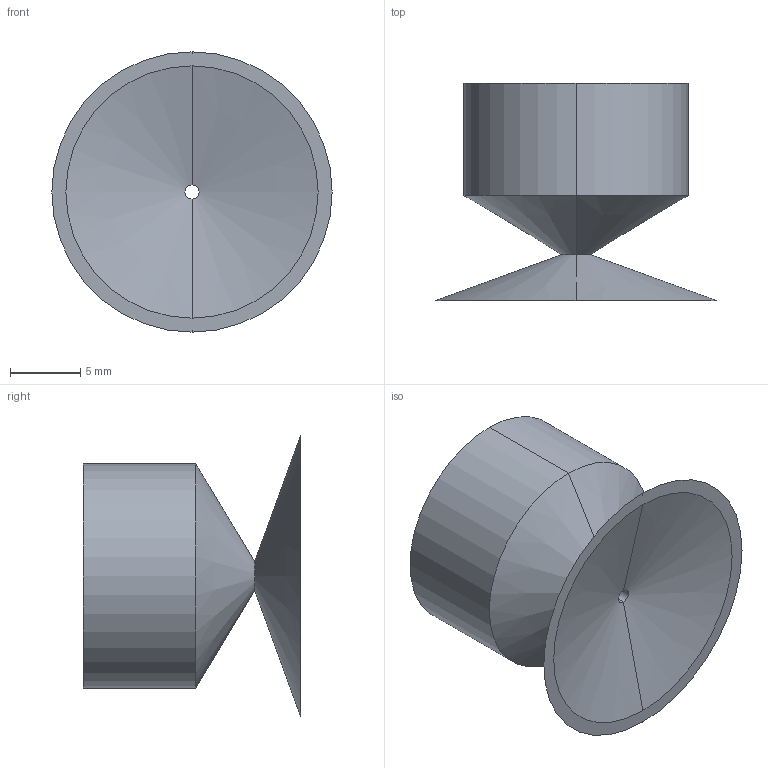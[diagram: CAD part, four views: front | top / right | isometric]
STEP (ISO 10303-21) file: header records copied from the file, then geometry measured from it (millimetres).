
FILE_DESCRIPTION (( 'STEP AP214' ), '1' );
FILE_NAME ('VSH-M20.STEP', '2019-11-30T09:11:47', ( '微软用户' ), ( '微软中国' ), 'SwSTEP 2.0', 'SolidWorks 2016', '' );
FILE_SCHEMA (( 'AUTOMOTIVE_DESIGN' ));
Length unit declared in the file: millimetre
Products named in the file (1): VSH-M20
Bounding box: 20 x 15.5 x 20 mm (x, y, z)
Volume: 1626.9 mm3; surface area: 1823.8 mm2
Topology: 1 solids, 1 shells, 18 faces, 36 edges, 22 vertices
Faces by surface type: cylinder 8, cone 6, plane 4
Entity records: 512 total; most frequent: DIRECTION 96, CARTESIAN_POINT 77, ORIENTED_EDGE 72, AXIS2_PLACEMENT_3D 41, EDGE_CURVE 36, EDGE_LOOP 22, CIRCLE 22, VERTEX_POINT 22
